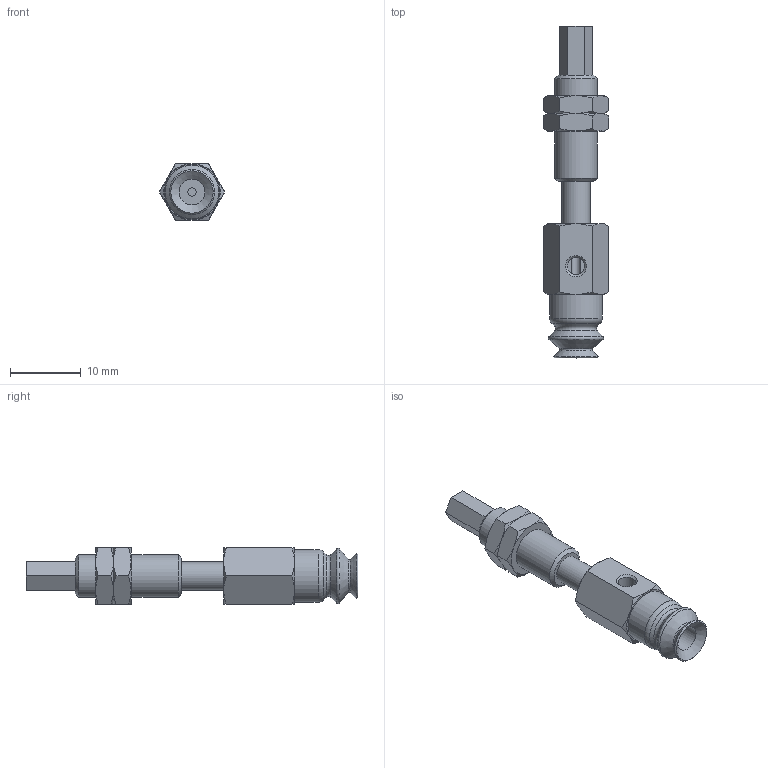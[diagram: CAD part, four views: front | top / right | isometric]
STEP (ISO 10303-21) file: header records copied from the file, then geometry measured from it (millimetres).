
FILE_DESCRIPTION(('STEP AP203'),'1');
FILE_NAME('.stp','2025-04-23T07:02:28',(' '),(' '),'Spatial InterOp 3D',' ',' ');
FILE_SCHEMA(('CONFIG_CONTROL_DESIGN'));
Length unit declared in the file: millimetre
Products named in the file (6): BNABPJYS-6-6-※; CONNECTOR_S-6-6; NUT-NAPJ-6-6-s; NAPJTS-6-6-FBODY; NAPJTS-6-6-MBODY; BPJG-6-※
Assembly tree (6 placements, depth 2):
  BNABPJYS-6-6-※
    CONNECTOR_S-6-6
    NUT-NAPJ-6-6-s  x2
    NAPJTS-6-6-FBODY
    NAPJTS-6-6-MBODY
    BPJG-6-※
Bounding box: 9.24 x 47 x 8 mm (x, y, z)
Volume: 1516 mm3; surface area: 2304.9 mm2
Topology: 6 solids, 6 shells, 134 faces, 289 edges, 172 vertices
Faces by surface type: cone 55, plane 55, cylinder 15, torus 9
Full cylindrical faces by diameter (mm): 1.2 x1, 2.459 x2, 3 x1, 3.64 x1, 4 x4, 5.188 x2, 6 x3, 7.5 x1
Entity records: 3230 total; most frequent: CARTESIAN_POINT 762, DIRECTION 456, ORIENTED_EDGE 384, AXIS2_PLACEMENT_3D 200, EDGE_CURVE 192, EDGE_LOOP 164, FACE_OUTER_BOUND 134, VERTEX_POINT 134
